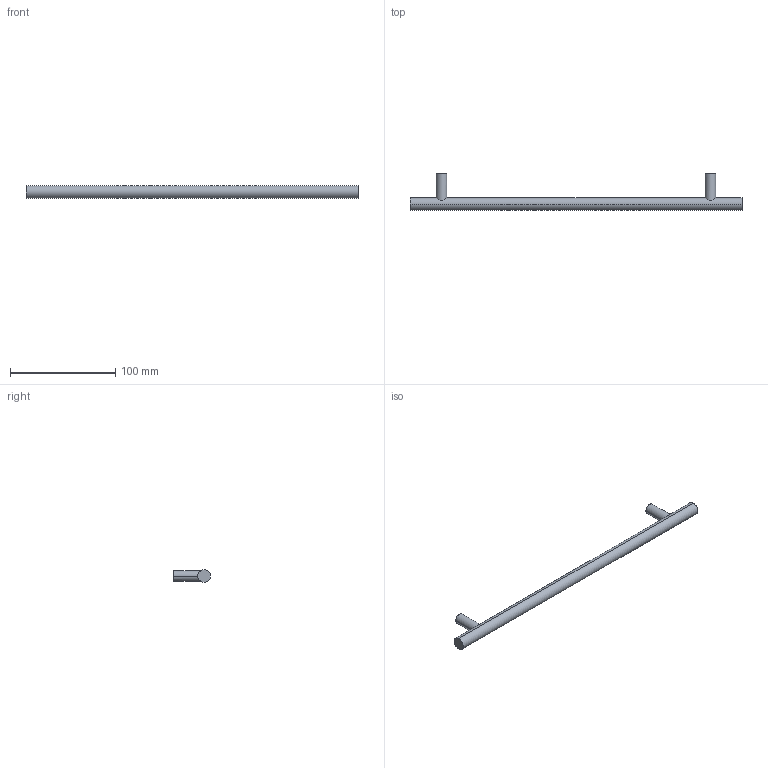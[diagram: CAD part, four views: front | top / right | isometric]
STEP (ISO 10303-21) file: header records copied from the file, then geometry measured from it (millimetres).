
FILE_DESCRIPTION( ( '' ), '1' );
FILE_NAME( 'D:/1.AUTOCAD EXPORT/Group 10/sheet_10_1/9071017.stp', '2013-10-21T10:09:57', ( '' ), ( '' ), ' ', ' ', ' ' );
FILE_SCHEMA( ( 'automotive_design' ) );
Length unit declared in the file: millimetre
Products named in the file (1): 1
Bounding box: 316 x 35 x 12 mm (x, y, z)
Volume: 39141.2 mm3; surface area: 13944.5 mm2
Topology: 1 solids, 1 shells, 16 faces, 32 edges, 22 vertices
Faces by surface type: cylinder 10, plane 6
Entity records: 972 total; most frequent: CARTESIAN_POINT 205, DIRECTION 76, STYLED_ITEM 71, PRESENTATION_STYLE_ASSIGNMENT 71, COLOUR_RGB 71, ORIENTED_EDGE 64, AXIS2_PLACEMENT_3D 33, EDGE_CURVE 32
